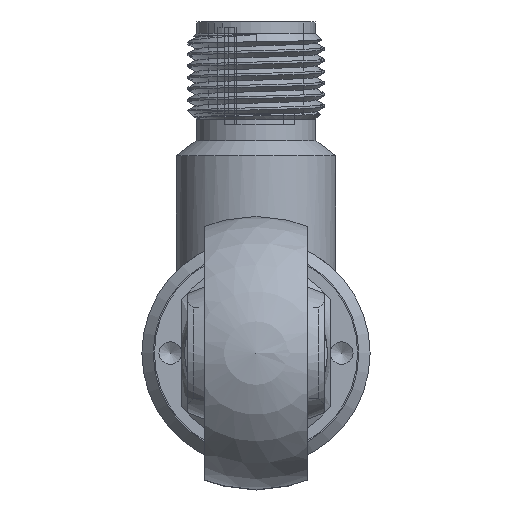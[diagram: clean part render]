
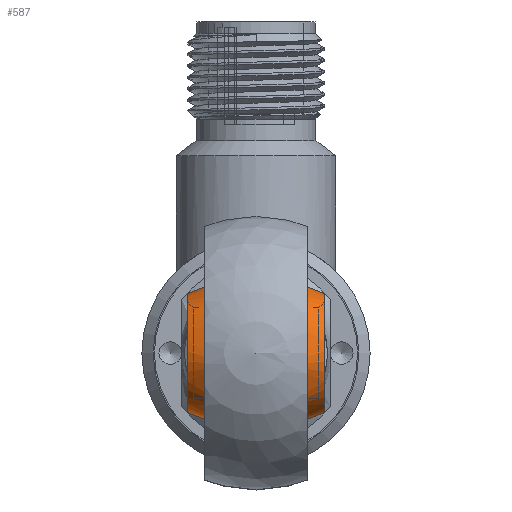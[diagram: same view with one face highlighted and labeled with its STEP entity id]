
A CAD part, left-side view. The second image highlights one B-rep face of the part: STEP entity #587.
In plain terms, the highlighted free-form (B-spline) face has degree [3, 3] with [4, 7] control points.
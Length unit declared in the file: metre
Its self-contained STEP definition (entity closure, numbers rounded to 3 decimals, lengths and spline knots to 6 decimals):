
#587 = ADVANCED_FACE( '', ( #806, #807 ), #808, .T. );
#806 = FACE_OUTER_BOUND( '', #3477, .T. );
#807 = FACE_OUTER_BOUND( '', #3478, .T. );
#808 = ( B_SPLINE_SURFACE( 3, 3, ( ( #3480, #3481, #3482, #3483, #3484, #3485, #3486 ), ( #3487, #3488, #3489, #3490, #3491, #3492, #3493 ), ( #3494, #3495, #3496, #3497, #3498, #3499, #3500 ), ( #3501, #3502, #3503, #3504, #3505, #3506, #3507 ) ), .UNSPECIFIED., .F., .T., .F. )B_SPLINE_SURFACE_WITH_KNOTS( ( 4, 4 ), ( 4, 3, 4 ), ( 0., 6.283185 ), ( -0.582914, 0., 0.582914 ), .UNSPECIFIED. )RATIONAL_B_SPLINE_SURFACE( ( ( 1., 0.333, 0.333, 1., 0.333, 0.333, 1. ), ( 0.89, 0.297, 0.297, 0.89, 0.297, 0.297, 0.89 ), ( 0.89, 0.297, 0.297, 0.89, 0.297, 0.297, 0.89 ), ( 1., 0.333, 0.333, 1., 0.333, 0.333, 1. ) ) )BOUNDED_SURFACE(  )REPRESENTATION_ITEM( '' )GEOMETRIC_REPRESENTATION_ITEM(  )SURFACE(  ) );
#3477 = EDGE_LOOP( '', ( #4135 ) );
#3478 = EDGE_LOOP( '', ( #4136 ) );
#3480 = CARTESIAN_POINT( '', ( -0.942857, 0.006, 0.00077 ) );
#3481 = CARTESIAN_POINT( '', ( -0.941318, 0.006, -0.009516 ) );
#3482 = CARTESIAN_POINT( '', ( -0.951603, 0.006, -0.011055 ) );
#3483 = CARTESIAN_POINT( '', ( -0.953143, 0.006, -0.00077 ) );
#3484 = CARTESIAN_POINT( '', ( -0.954682, 0.006, 0.009516 ) );
#3485 = CARTESIAN_POINT( '', ( -0.944397, 0.006, 0.011055 ) );
#3486 = CARTESIAN_POINT( '', ( -0.942857, 0.006, 0.00077 ) );
#3487 = CARTESIAN_POINT( '', ( -0.94041, 0.002247, 0.001136 ) );
#3488 = CARTESIAN_POINT( '', ( -0.938138, 0.002247, -0.014043 ) );
#3489 = CARTESIAN_POINT( '', ( -0.953318, 0.002247, -0.016315 ) );
#3490 = CARTESIAN_POINT( '', ( -0.95559, 0.002247, -0.001136 ) );
#3491 = CARTESIAN_POINT( '', ( -0.957862, 0.002247, 0.014043 ) );
#3492 = CARTESIAN_POINT( '', ( -0.942682, 0.002247, 0.016315 ) );
#3493 = CARTESIAN_POINT( '', ( -0.94041, 0.002247, 0.001136 ) );
#3494 = CARTESIAN_POINT( '', ( -0.94041, -0.002247, 0.001136 ) );
#3495 = CARTESIAN_POINT( '', ( -0.938138, -0.002247, -0.014043 ) );
#3496 = CARTESIAN_POINT( '', ( -0.953318, -0.002247, -0.016315 ) );
#3497 = CARTESIAN_POINT( '', ( -0.95559, -0.002247, -0.001136 ) );
#3498 = CARTESIAN_POINT( '', ( -0.957862, -0.002247, 0.014043 ) );
#3499 = CARTESIAN_POINT( '', ( -0.942682, -0.002247, 0.016315 ) );
#3500 = CARTESIAN_POINT( '', ( -0.94041, -0.002247, 0.001136 ) );
#3501 = CARTESIAN_POINT( '', ( -0.942857, -0.006, 0.00077 ) );
#3502 = CARTESIAN_POINT( '', ( -0.941318, -0.006, -0.009516 ) );
#3503 = CARTESIAN_POINT( '', ( -0.951603, -0.006, -0.011055 ) );
#3504 = CARTESIAN_POINT( '', ( -0.953143, -0.006, -0.00077 ) );
#3505 = CARTESIAN_POINT( '', ( -0.954682, -0.006, 0.009516 ) );
#3506 = CARTESIAN_POINT( '', ( -0.944397, -0.006, 0.011055 ) );
#3507 = CARTESIAN_POINT( '', ( -0.942857, -0.006, 0.00077 ) );
#4135 = ORIENTED_EDGE( '', *, *, #4512, .F. );
#4136 = ORIENTED_EDGE( '', *, *, #4513, .T. );
#4512 = EDGE_CURVE( '', #5170, #5170, #5171, .T. );
#4513 = EDGE_CURVE( '', #5172, #5172, #5173, .T. );
#5170 = VERTEX_POINT( '', #11203 );
#5171 = CIRCLE( '', #11204, 0.0052 );
#5172 = VERTEX_POINT( '', #11205 );
#5173 = CIRCLE( '', #11206, 0.0052 );
#11203 = CARTESIAN_POINT( '', ( -0.942857, 0.006, 0.00077 ) );
#11204 = AXIS2_PLACEMENT_3D( '', #11722, #11723, #11724 );
#11205 = CARTESIAN_POINT( '', ( -0.942857, -0.006, 0.00077 ) );
#11206 = AXIS2_PLACEMENT_3D( '', #11725, #11726, #11727 );
#11722 = CARTESIAN_POINT( '', ( -0.948, 0.006, 0. ) );
#11723 = DIRECTION( '', ( 0., 1., 0. ) );
#11724 = DIRECTION( '', ( 0.989, 0., 0.148 ) );
#11725 = CARTESIAN_POINT( '', ( -0.948, -0.006, 0. ) );
#11726 = DIRECTION( '', ( 0., 1., 0. ) );
#11727 = DIRECTION( '', ( 0.989, 0., 0.148 ) );
